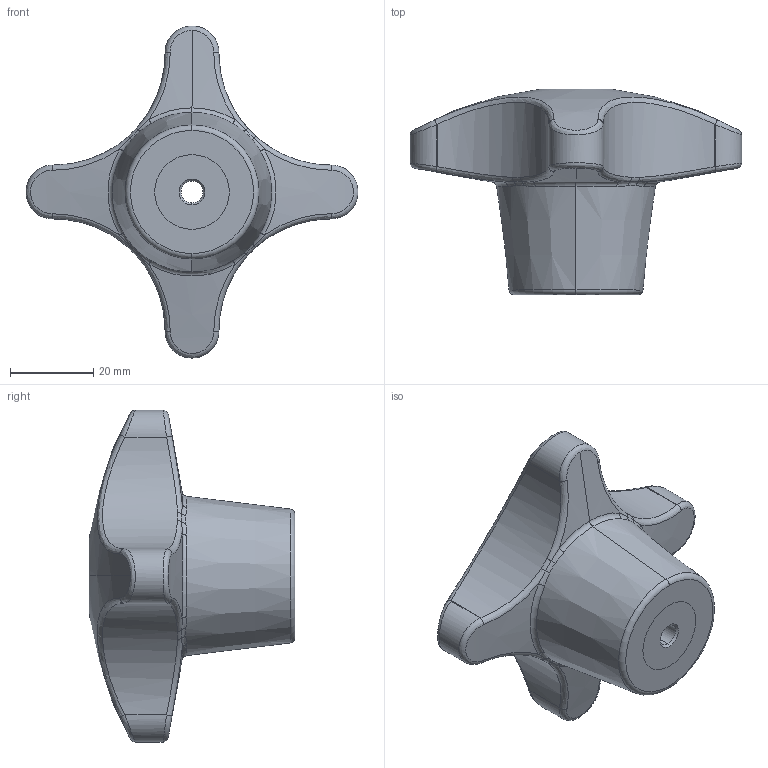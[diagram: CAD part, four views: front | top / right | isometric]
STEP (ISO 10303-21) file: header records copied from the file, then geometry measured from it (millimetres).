
FILE_DESCRIPTION (( 'STEP AP214' ), '1' );
FILE_NAME ('1121 80 402.STEP', '2010-11-26T16:13:55', ( 'Marc' ), ( '' ), 'SwSTEP 2.0', 'SolidWorks 2010', '' );
FILE_SCHEMA (( 'AUTOMOTIVE_DESIGN' ));
Length unit declared in the file: millimetre
Products named in the file (1): 1121 80 402
Bounding box: 79.98 x 49.54 x 79.99 mm (x, y, z)
Volume: 66067 mm3; surface area: 15563.6 mm2
Topology: 2 solids, 2 shells, 81 faces, 193 edges, 116 vertices
Faces by surface type: bspline 36, cylinder 23, cone 9, torus 7, plane 4, sphere 2
Entity records: 14853 total; most frequent: CARTESIAN_POINT 13060, ORIENTED_EDGE 386, DIRECTION 280, EDGE_CURVE 193, AXIS2_PLACEMENT_3D 126, VERTEX_POINT 116, B_SPLINE_CURVE_WITH_KNOTS 85, EDGE_LOOP 85
